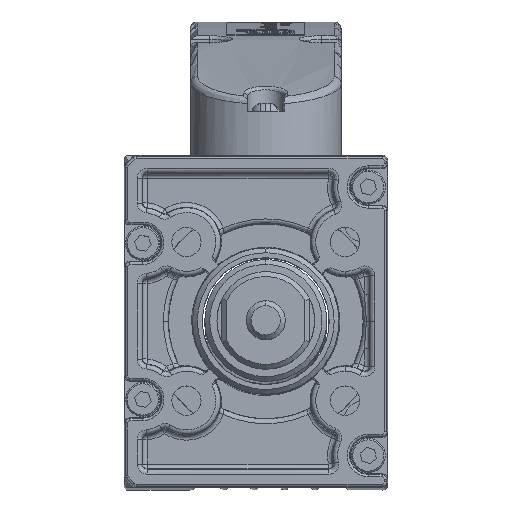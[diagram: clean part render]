
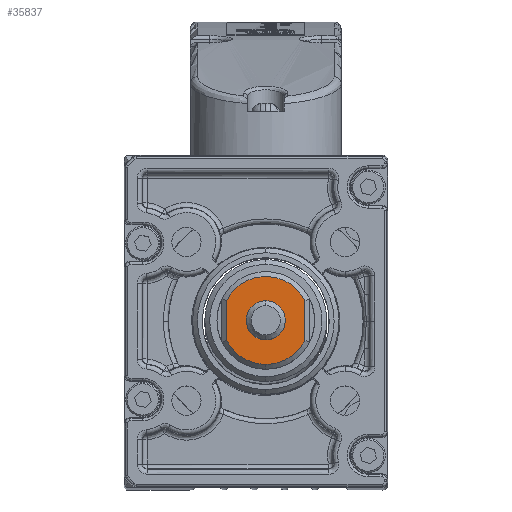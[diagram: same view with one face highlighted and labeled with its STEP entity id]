
A CAD part, top view. The second image highlights one B-rep face of the part: STEP entity #35837.
In plain terms, the highlighted planar face has unit normal (0, 0, 1) as drawn and (0, 0, -1) by its records, which use the part's own axes.
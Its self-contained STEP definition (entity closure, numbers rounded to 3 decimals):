
#14392 = CARTESIAN_POINT ( 'NONE',  ( 0., 0., -494. ) ) ;
#14394 = DIRECTION ( 'NONE',  ( 0., 0., -1. ) ) ;
#14396 = DIRECTION ( 'NONE',  ( -1., 0., 0. ) ) ;
#17223 = CARTESIAN_POINT ( 'NONE',  ( 4., 0., -494. ) ) ;
#17224 = CARTESIAN_POINT ( 'NONE',  ( 9., 0., -494. ) ) ;
#17266 = CARTESIAN_POINT ( 'NONE',  ( -4.123, 8., -494. ) ) ;
#17271 = CARTESIAN_POINT ( 'NONE',  ( -4.123, -8., -494. ) ) ;
#17365 = CARTESIAN_POINT ( 'NONE',  ( -4., 0., -494. ) ) ;
#17386 = CARTESIAN_POINT ( 'NONE',  ( 4.123, 8., -494. ) ) ;
#17444 = CARTESIAN_POINT ( 'NONE',  ( 4.123, -8., -494. ) ) ;
#31860 = ORIENTED_EDGE ( 'NONE', *, *, #36052, .T. ) ;
#31870 = ORIENTED_EDGE ( 'NONE', *, *, #35718, .T. ) ;
#31872 = ORIENTED_EDGE ( 'NONE', *, *, #35077, .T. ) ;
#31885 = ORIENTED_EDGE ( 'NONE', *, *, #35722, .T. ) ;
#31886 = ORIENTED_EDGE ( 'NONE', *, *, #35721, .T. ) ;
#31891 = ORIENTED_EDGE ( 'NONE', *, *, #36099, .T. ) ;
#31895 = ORIENTED_EDGE ( 'NONE', *, *, #35720, .T. ) ;
#35077 = EDGE_CURVE ( 'NONE', #47838, #47833, #49934, .T. ) ;
#35718 = EDGE_CURVE ( 'NONE', #47932, #47790, #63679, .T. ) ;
#35720 = EDGE_CURVE ( 'NONE', #47954, #47791, #63692, .T. ) ;
#35721 = EDGE_CURVE ( 'NONE', #48012, #47838, #47160, .T. ) ;
#35722 = EDGE_CURVE ( 'NONE', #47833, #47954, #47225, .T. ) ;
#35837 = ADVANCED_FACE ( 'NONE', ( #42514, #42517 ), #42518, .T. ) ;
#36052 = EDGE_CURVE ( 'NONE', #47791, #48012, #64837, .T. ) ;
#36099 = EDGE_CURVE ( 'NONE', #47790, #47932, #64908, .T. ) ;
#42513 = CARTESIAN_POINT ( 'NONE',  ( 10., 0., -494. ) ) ;
#42514 = FACE_OUTER_BOUND ( 'NONE', #50409, .T. ) ;
#42517 = FACE_BOUND ( 'NONE', #50585, .T. ) ;
#42518 = PLANE ( 'NONE',  #64181 ) ;
#42520 = DIRECTION ( 'NONE',  ( 0., 0., -1. ) ) ;
#42521 = DIRECTION ( 'NONE',  ( -1., 0., 0. ) ) ;
#43117 = CARTESIAN_POINT ( 'NONE',  ( 0., 0., -494. ) ) ;
#43118 = DIRECTION ( 'NONE',  ( 0., 0., -1. ) ) ;
#43119 = DIRECTION ( 'NONE',  ( -1., 0., 0. ) ) ;
#43186 = CARTESIAN_POINT ( 'NONE',  ( 0., 0., -494. ) ) ;
#43187 = DIRECTION ( 'NONE',  ( 0., 0., 1. ) ) ;
#43188 = DIRECTION ( 'NONE',  ( 1., 0., 0. ) ) ;
#47160 = LINE ( 'NONE', #47207, #63705 ) ;
#47202 = CARTESIAN_POINT ( 'NONE',  ( 0., 0., -494. ) ) ;
#47203 = DIRECTION ( 'NONE',  ( 0., 0., 1. ) ) ;
#47205 = DIRECTION ( 'NONE',  ( 1., 0., 0. ) ) ;
#47207 = CARTESIAN_POINT ( 'NONE',  ( -4.359, -8., -494. ) ) ;
#47217 = CARTESIAN_POINT ( 'NONE',  ( 0., 0., -494. ) ) ;
#47219 = DIRECTION ( 'NONE',  ( 0., 0., -1. ) ) ;
#47221 = DIRECTION ( 'NONE',  ( -1., 0., 0. ) ) ;
#47223 = DIRECTION ( 'NONE',  ( -1., 0., 0. ) ) ;
#47225 = LINE ( 'NONE', #47228, #63712 ) ;
#47228 = CARTESIAN_POINT ( 'NONE',  ( 4.359, 8., -494. ) ) ;
#47230 = DIRECTION ( 'NONE',  ( 1., 0., 0. ) ) ;
#47790 = VERTEX_POINT ( 'NONE', #17223 ) ;
#47791 = VERTEX_POINT ( 'NONE', #17224 ) ;
#47833 = VERTEX_POINT ( 'NONE', #17266 ) ;
#47838 = VERTEX_POINT ( 'NONE', #17271 ) ;
#47932 = VERTEX_POINT ( 'NONE', #17365 ) ;
#47954 = VERTEX_POINT ( 'NONE', #17386 ) ;
#48012 = VERTEX_POINT ( 'NONE', #17444 ) ;
#49934 = CIRCLE ( 'NONE', #49950, 9. ) ;
#49950 = AXIS2_PLACEMENT_3D ( 'NONE', #14392, #14394, #14396 ) ;
#50409 = EDGE_LOOP ( 'NONE', ( #31872, #31885, #31895, #31860, #31886 ) ) ;
#50585 = EDGE_LOOP ( 'NONE', ( #31891, #31870 ) ) ;
#63679 = CIRCLE ( 'NONE', #63696, 4. ) ;
#63692 = CIRCLE ( 'NONE', #63708, 9. ) ;
#63696 = AXIS2_PLACEMENT_3D ( 'NONE', #47202, #47203, #47205 ) ;
#63705 = VECTOR ( 'NONE', #47223, 1000. ) ;
#63708 = AXIS2_PLACEMENT_3D ( 'NONE', #47217, #47219, #47221 ) ;
#63712 = VECTOR ( 'NONE', #47230, 1000. ) ;
#64181 = AXIS2_PLACEMENT_3D ( 'NONE', #42513, #42520, #42521 ) ;
#64837 = CIRCLE ( 'NONE', #64847, 9. ) ;
#64847 = AXIS2_PLACEMENT_3D ( 'NONE', #43117, #43118, #43119 ) ;
#64908 = CIRCLE ( 'NONE', #64937, 4. ) ;
#64937 = AXIS2_PLACEMENT_3D ( 'NONE', #43186, #43187, #43188 ) ;
